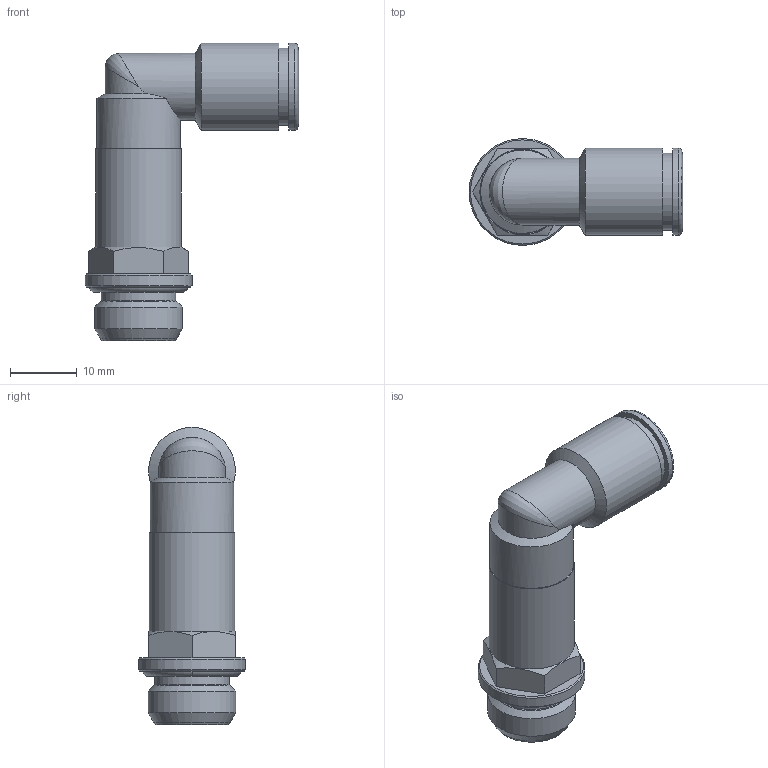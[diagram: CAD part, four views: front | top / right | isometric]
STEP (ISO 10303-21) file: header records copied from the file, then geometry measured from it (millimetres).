
FILE_DESCRIPTION(('Bauteilbeschreibung','HiCAD-Model','HiCAD-STEP-TRANSLATION','Bauteilbeschreibung'),'2;1');
FILE_NAME('B:/ABGLEICH/ZEICHNUNGEN/STEP FÜR INTERNET/STEP/IPSO 026/202606_IPSO_026_8_1-4.STP','2012-02-20T15:24:39+00:00',('Konstrukteur'),('Konstrukteur Firma GmbH'),' HiCAD neXt 2008, Step 3.1.1401.2J ','HiCAD neXt 2008','confidential');
FILE_SCHEMA(('AUTOMOTIVE_DESIGN { 1 2 10303 214 0 1 1 1 }'));
Length unit declared in the file: millimetre
Products named in the file (7): A02606_IPSO_026_8_1_4; OR 11_11X1_78; DR8_1_NEU; R202205_N1_N2; A14613_N2; A146130N2; G 1_4
Assembly tree (6 placements, depth 3):
  A02606_IPSO_026_8_1_4
    OR 11_11X1_78
    DR8_1_NEU
    R202205_N1_N2
    A14613_N2
    A146130N2
      G 1_4
Bounding box: 32 x 16 x 44.5 mm (x, y, z)
Volume: 4782.9 mm3; surface area: 5948.4 mm2
Topology: 5 solids, 5 shells, 78 faces, 170 edges, 103 vertices
Faces by surface type: cylinder 25, cone 25, plane 20, torus 7, bspline 1
Full cylindrical faces by diameter (mm): 5.5 x1, 7 x1, 8.1 x1, 8.2 x1, 8.5 x1, 9 x2, 10 x1, 10.1 x3, 11 x1, 11.2 x1, 11.445 x2, 11.5 x1, 11.6 x1, 12.5 x1, 12.8 x1, 13 x2, 13.157 x1, 16 x1
Entity records: 3754 total; most frequent: CARTESIAN_POINT 1687, DIRECTION 340, ORIENTED_EDGE 214, AXIS2_PLACEMENT_3D 163, EDGE_LOOP 139, EDGE_CURVE 107, COLOUR_RGB 91, PRESENTATION_STYLE_ASSIGNMENT 91
